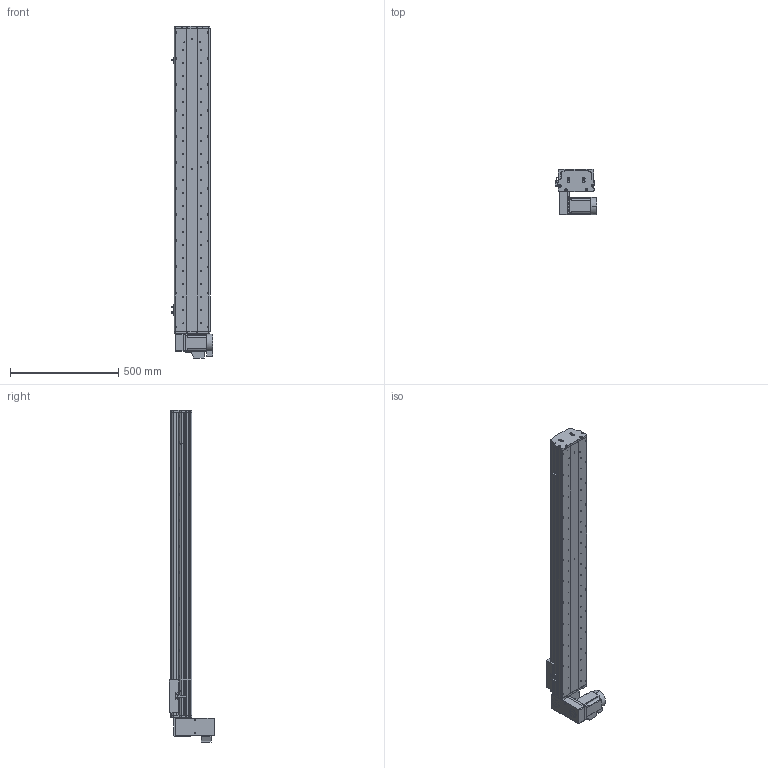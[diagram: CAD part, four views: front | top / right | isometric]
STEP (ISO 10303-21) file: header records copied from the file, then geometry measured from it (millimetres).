
FILE_DESCRIPTION (( 'STEP AP214' ), '1' );
FILE_NAME ('KSD165B-S1150-MLD-CM.STEP', '2017-10-16T07:20:56', ( '微软用户' ), ( '微软中国' ), 'SwSTEP 2.0', 'SolidWorks 2014', '' );
FILE_SCHEMA (( 'AUTOMOTIVE_DESIGN' ));
Length unit declared in the file: millimetre
Products named in the file (17): U倰嫖萇EEㄜSX672; 覜茼え68遵圉猾敕; KSD165模组-同步带-防撞垫2; KSD165模组同步带-防撞垫1; KSD165耀郪-ヶ傷啣1-肮祭湍; KSD165模组-后端板1-同步带; KSD165模组-同步带滑动座-最新版; KSD165B-S1150-MLD-CM; 130宽模组马达安装板连板上下折丝杆同步带; 130宽模组保护罩上下左右折-同步带; HTPA26S5M250-A-H8 750W萇儂蚚; HTPA26S5M250-A-H8 400W萇儂蚚 ; 165宽马达安装板同步带左-改; KSD165模组-同步带防尘盖1-1150行程; KSD165模组同步带底板-1150行程; 拸秶雄ん750W侜督萇儂; U倰嫖萇假蚾璃
Assembly tree (20 placements, depth 2):
  KSD165B-S1150-MLD-CM
    KSD165模组-同步带滑动座-最新版
    KSD165模组-后端板1-同步带
    KSD165耀郪-ヶ傷啣1-肮祭湍
    KSD165模组同步带-防撞垫1
    KSD165模组-同步带-防撞垫2
    覜茼え68遵圉猾敕
    U倰嫖萇EEㄜSX672  x3
    U倰嫖萇假蚾璃  x3
    拸秶雄ん750W侜督萇儂
    KSD165模组同步带底板-1150行程
    KSD165模组-同步带防尘盖1-1150行程
    165宽马达安装板同步带左-改
    HTPA26S5M250-A-H8 400W萇儂蚚 
    HTPA26S5M250-A-H8 750W萇儂蚚
    130宽模组保护罩上下左右折-同步带
    130宽模组马达安装板连板上下折丝杆同步带
Bounding box: 191.2 x 210 x 1531 mm (x, y, z)
Volume: 8594424.8 mm3; surface area: 2000664.3 mm2
Topology: 21 solids, 22 shells, 1997 faces, 5640 edges, 3684 vertices
Faces by surface type: cylinder 1293, plane 592, cone 112
Entity records: 65144 total; most frequent: CARTESIAN_POINT 13350, DIRECTION 10680, ORIENTED_EDGE 9940, EDGE_CURVE 4970, AXIS2_PLACEMENT_3D 4196, VERTEX_POINT 3276, CIRCLE 2396, LINE 2288
